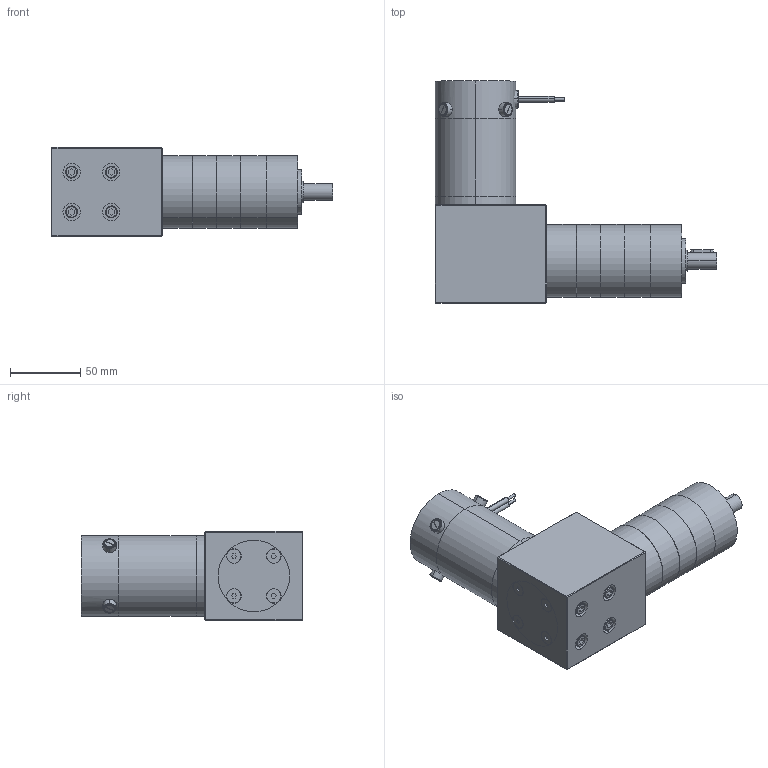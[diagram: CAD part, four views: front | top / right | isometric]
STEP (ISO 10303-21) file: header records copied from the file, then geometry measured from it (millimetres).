
FILE_DESCRIPTION (( 'STEP AP203' ), '1' );
FILE_NAME ('s22346gra4.step', '2018-12-07T19:58:31', ( '' ), ( '' ), 'SwSTEP 2.0', 'SolidWorks 2017', '' );
FILE_SCHEMA (( 'CONFIG_CONTROL_DESIGN' ));
Length unit declared in the file: inch
Products named in the file (1): s22346gra4
Bounding box: 200.02 x 157.68 x 63.5 mm (x, y, z)
Volume: 773520.3 mm3; surface area: 122198.3 mm2
Topology: 26 solids, 26 shells, 646 faces, 1387 edges, 858 vertices
Faces by surface type: plane 292, cylinder 238, cone 97, torus 11, sphere 8
Entity records: 17916 total; most frequent: CARTESIAN_POINT 3342, DIRECTION 3271, ORIENTED_EDGE 2742, EDGE_CURVE 1371, AXIS2_PLACEMENT_3D 1273, VERTEX_POINT 858, EDGE_LOOP 769, LINE 725
